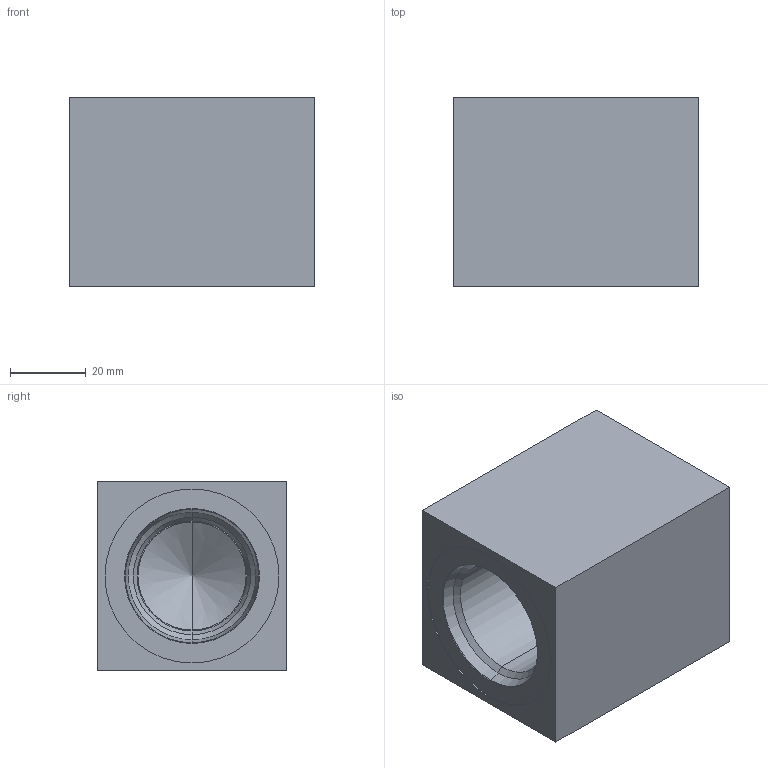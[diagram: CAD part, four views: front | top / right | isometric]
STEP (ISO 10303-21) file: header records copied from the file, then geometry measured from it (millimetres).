
FILE_DESCRIPTION (( 'STEP AP214' ), '1' );
FILE_NAME ('2.13-1005_ISO 7789-33-01-0-98.STEP', '2021-12-20T09:28:13', ( '' ), ( '' ), 'SwSTEP 2.0', 'SolidWorks 2020', '' );
FILE_SCHEMA (( 'AUTOMOTIVE_DESIGN' ));
Length unit declared in the file: millimetre
Products named in the file (1): 2.13-1005_ISO 7789-33-01-0-98
Bounding box: 65 x 50 x 50 mm (x, y, z)
Volume: 120144.5 mm3; surface area: 23122.1 mm2
Topology: 1 solids, 1 shells, 28 faces, 58 edges, 33 vertices
Faces by surface type: cylinder 8, cone 8, plane 8, torus 4
Entity records: 846 total; most frequent: DIRECTION 142, CARTESIAN_POINT 118, ORIENTED_EDGE 112, AXIS2_PLACEMENT_3D 57, EDGE_CURVE 56, VERTEX_POINT 33, EDGE_LOOP 31, VECTOR 28
